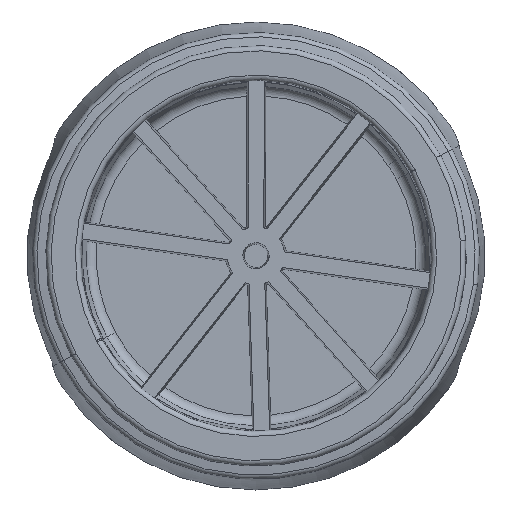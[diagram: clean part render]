
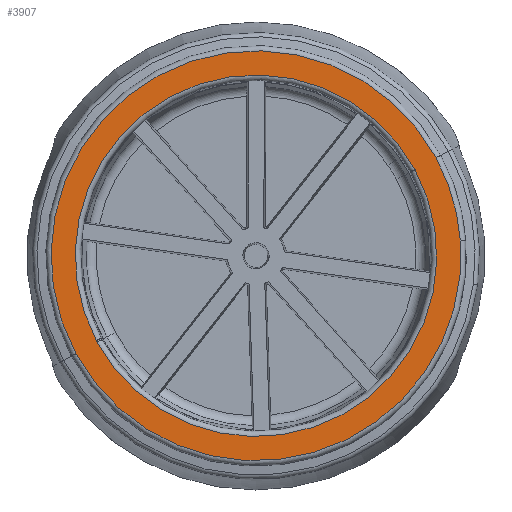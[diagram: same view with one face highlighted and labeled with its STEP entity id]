
A CAD part, top view. The second image highlights one B-rep face of the part: STEP entity #3907.
In plain terms, the highlighted planar face has unit normal (0, 0, 1).
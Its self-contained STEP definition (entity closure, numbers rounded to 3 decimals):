
#3394=AXIS2_PLACEMENT_3D('Circle Axis2P3D',#3392,#3393,$) ;
#3411=AXIS2_PLACEMENT_3D('Circle Axis2P3D',#3409,#3410,$) ;
#3662=AXIS2_PLACEMENT_3D('Circle Axis2P3D',#3660,#3661,$) ;
#3679=AXIS2_PLACEMENT_3D('Circle Axis2P3D',#3677,#3678,$) ;
#3873=AXIS2_PLACEMENT_3D('Plane Axis2P3D',#3870,#3871,#3872) ;
#3877=AXIS2_PLACEMENT_3D('Circle Axis2P3D',#3875,#3876,$) ;
#3886=AXIS2_PLACEMENT_3D('Circle Axis2P3D',#3884,#3885,$) ;
#3893=AXIS2_PLACEMENT_3D('Circle Axis2P3D',#3891,#3892,$) ;
#3382=CARTESIAN_POINT('Vertex',(30.368,16.379,-72.)) ;
#3389=CARTESIAN_POINT('Vertex',(-30.29,-16.435,-72.)) ;
#3392=CARTESIAN_POINT('Axis2P3D Location',(0.,0.044,-72.)) ;
#3409=CARTESIAN_POINT('Axis2P3D Location',(0.,0.044,-72.)) ;
#3413=CARTESIAN_POINT('Vertex',(30.29,16.523,-72.)) ;
#3657=CARTESIAN_POINT('Vertex',(-30.446,-16.145,-72.)) ;
#3660=CARTESIAN_POINT('Axis2P3D Location',(0.,0.044,-72.)) ;
#3677=CARTESIAN_POINT('Axis2P3D Location',(0.,0.044,-72.)) ;
#3870=CARTESIAN_POINT('Axis2P3D Location',(33.5,-0.015,-72.)) ;
#3875=CARTESIAN_POINT('Axis2P3D Location',(0.,0.044,-72.)) ;
#3879=CARTESIAN_POINT('Vertex',(-34.346,-18.641,-72.)) ;
#3881=CARTESIAN_POINT('Vertex',(38.998,2.86,-72.)) ;
#3884=CARTESIAN_POINT('Axis2P3D Location',(0.,0.044,-72.)) ;
#3888=CARTESIAN_POINT('Vertex',(34.346,18.729,-72.)) ;
#3891=CARTESIAN_POINT('Axis2P3D Location',(0.,0.044,-72.)) ;
#3393=DIRECTION('Axis2P3D Direction',(0.,0.,1.)) ;
#3410=DIRECTION('Axis2P3D Direction',(0.,0.,1.)) ;
#3661=DIRECTION('Axis2P3D Direction',(-0.,0.,1.)) ;
#3678=DIRECTION('Axis2P3D Direction',(-0.,0.,1.)) ;
#3871=DIRECTION('Axis2P3D Direction',(0.,0.,1.)) ;
#3872=DIRECTION('Axis2P3D XDirection',(1.,0.,0.)) ;
#3876=DIRECTION('Axis2P3D Direction',(0.,0.,1.)) ;
#3885=DIRECTION('Axis2P3D Direction',(0.,0.,1.)) ;
#3892=DIRECTION('Axis2P3D Direction',(0.,0.,1.)) ;
#3897=ORIENTED_EDGE('',*,*,#3883,.T.) ;
#3898=ORIENTED_EDGE('',*,*,#3890,.T.) ;
#3899=ORIENTED_EDGE('',*,*,#3895,.T.) ;
#3902=ORIENTED_EDGE('',*,*,#3681,.T.) ;
#3903=ORIENTED_EDGE('',*,*,#3664,.T.) ;
#3904=ORIENTED_EDGE('',*,*,#3415,.T.) ;
#3905=ORIENTED_EDGE('',*,*,#3396,.T.) ;
#3906=FACE_BOUND('',#3901,.T.) ;
#3907=ADVANCED_FACE('\X2\65B96848\X0\2',(#3900,#3906),#3874,.T.) ;
#3395=CIRCLE('generated circle',#3394,34.483) ;
#3412=CIRCLE('generated circle',#3411,34.483) ;
#3663=CIRCLE('generated circle',#3662,34.483) ;
#3680=CIRCLE('generated circle',#3679,34.483) ;
#3878=CIRCLE('generated circle',#3877,39.1) ;
#3887=CIRCLE('generated circle',#3886,39.1) ;
#3894=CIRCLE('generated circle',#3893,39.1) ;
#3396=EDGE_CURVE('',#3383,#3390,#3395,.F.) ;
#3415=EDGE_CURVE('',#3414,#3383,#3412,.F.) ;
#3664=EDGE_CURVE('',#3658,#3414,#3663,.F.) ;
#3681=EDGE_CURVE('',#3390,#3658,#3680,.F.) ;
#3883=EDGE_CURVE('',#3880,#3882,#3878,.T.) ;
#3890=EDGE_CURVE('',#3882,#3889,#3887,.T.) ;
#3895=EDGE_CURVE('',#3889,#3880,#3894,.T.) ;
#3896=EDGE_LOOP('',(#3897,#3898,#3899)) ;
#3901=EDGE_LOOP('',(#3902,#3903,#3904,#3905)) ;
#3900=FACE_OUTER_BOUND('',#3896,.T.) ;
#3874=PLANE('Plane',#3873) ;
#3383=VERTEX_POINT('',#3382) ;
#3390=VERTEX_POINT('',#3389) ;
#3414=VERTEX_POINT('',#3413) ;
#3658=VERTEX_POINT('',#3657) ;
#3880=VERTEX_POINT('',#3879) ;
#3882=VERTEX_POINT('',#3881) ;
#3889=VERTEX_POINT('',#3888) ;
